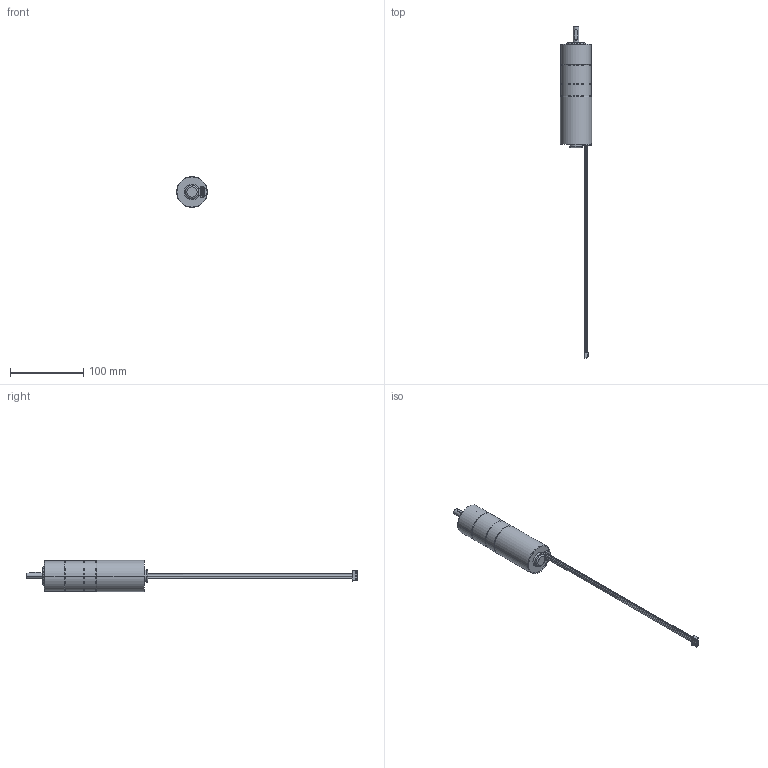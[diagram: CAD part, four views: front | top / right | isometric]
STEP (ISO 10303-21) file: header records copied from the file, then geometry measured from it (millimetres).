
FILE_DESCRIPTION((''),'2;1');
FILE_NAME('AC_000_ASM','2024-01-17T15:31:17',('Danny.Guo'),(''),'CREO PARAMETRIC BY PTC INC, 2020414','CREO PARAMETRIC BY PTC INC, 2020414','');
FILE_SCHEMA(('CONFIG_CONTROL_DESIGN'));
Length unit declared in the file: millimetre
Products named in the file (3): AC_000; XHP-5_0; AC_000_ASM
Assembly tree (2 placements, depth 2):
  AC_000_ASM
    AC_000
    XHP-5_0
Bounding box: 42.4 x 453.05 x 42.4 mm (x, y, z)
Volume: 193293 mm3; surface area: 37422.7 mm2
Topology: 2 solids, 6 shells, 275 faces, 673 edges, 436 vertices
Faces by surface type: plane 155, cylinder 87, cone 28, torus 5
Entity records: 8180 total; most frequent: CARTESIAN_POINT 1448, DIRECTION 1442, ORIENTED_EDGE 1314, EDGE_CURVE 665, AXIS2_PLACEMENT_3D 505, VERTEX_POINT 436, VECTOR 432, LINE 432
